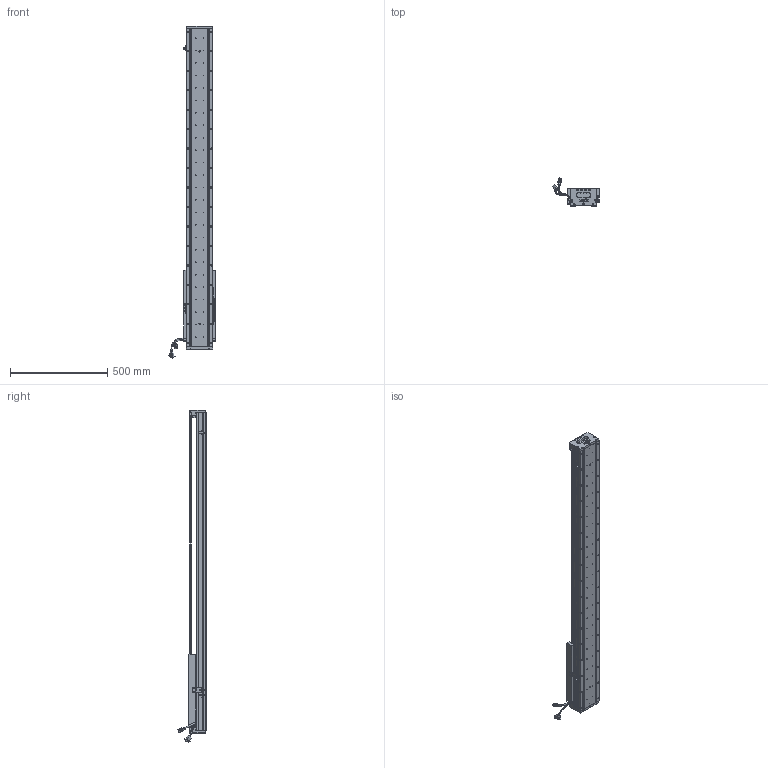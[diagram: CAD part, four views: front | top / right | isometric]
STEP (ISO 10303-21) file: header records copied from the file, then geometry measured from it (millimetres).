
FILE_DESCRIPTION (( 'STEP AP203' ), '1' );
FILE_NAME ('Z5-RY140D-1-L500-B-K.SLDASM_1200.step', '2021-05-17T08:36:12', ( '盈信电脑' ), ( '东莞市道滘镇水果街19号' ), 'SwSTEP 2.0', 'SolidWorks 2016', '' );
FILE_SCHEMA (( 'CONFIG_CONTROL_DESIGN' ));
Length unit declared in the file: millimetre
Products named in the file (36): SCREW-M1.7; 覜茼ん672; Z5-RY140圉猾敕臏賑輸(21遴); SCALE-Part-2; Z5-RY140D-1-L500-B-K.SLDASM_1200; SEAL-Part-1; 140雄赽晤鎢ん堤盄; 詩湍狟揤裔; COVER-Part-1; LABEL-Part-1; COVER; Z5-RY140-L500直线电机模组底座_1200; HOLDER0; 140-Z-臏賑輸盄裔(21遴); SCREW-M1.6-3; 榋妏寠巭燃_暯_M2_2; HARNESS; LABEL; Z-RY140感应器672光电感应片; PBU_SHEET; PSLH080_PSLF2; HARNESS-Part-1; 詩湍奻揤裔; 080黍杅芛假蚾釱21遴; 140蚥薯蝶輸; SCREW-M1.6-2; SCREW-M1.6; SCALE-Part-1; Z5-RY140-L500詩湍100mm遵_1200; SCREW-M1.6-1; Z-140詩湍傷裔啣; SCALE; SHIELDPLATE; SEAL; SCREW-M1.7-1; HARNESS-Part-2
Assembly tree (41 placements, depth 4):
  Z5-RY140D-1-L500-B-K.SLDASM_1200
    Z5-RY140-L500直线电机模组底座_1200
    Z-RY140感应器672光电感应片
    Z5-RY140圉猾敕臏賑輸(21遴)
    覜茼ん672  x3
    Z5-RY140-L500詩湍100mm遵_1200
    PSLH080_PSLF2
      SCALE
        SCALE-Part-1
        SCALE-Part-2
      HARNESS
        HARNESS-Part-1
        HARNESS-Part-2
      LABEL
        LABEL-Part-1
      COVER
        COVER-Part-1
      SEAL
        SEAL-Part-1
      榋妏寠巭燃_暯_M2_2
      SHIELDPLATE
      SCREW-M1.7
      SCREW-M1.7-1
      PBU_SHEET
      SCREW-M1.6
      SCREW-M1.6-1
      SCREW-M1.6-2
      SCREW-M1.6-3
      HOLDER0
    080黍杅芛假蚾釱21遴
    140-Z-臏賑輸盄裔(21遴)
    Z-140詩湍傷裔啣  x2
    詩湍狟揤裔  x2
    詩湍奻揤裔  x2
    140蚥薯蝶輸  x2
    140雄赽晤鎢ん堤盄
Bounding box: 239.83 x 143.88 x 1705.87 mm (x, y, z)
Volume: 6213913.4 mm3; surface area: 1574023.9 mm2
Topology: 36 solids, 36 shells, 3524 faces, 9440 edges, 5983 vertices
Faces by surface type: cylinder 1806, plane 1254, cone 342, torus 69, bspline 53
Entity records: 107856 total; most frequent: CARTESIAN_POINT 28843, ORIENTED_EDGE 15920, DIRECTION 15264, EDGE_CURVE 7960, AXIS2_PLACEMENT_3D 5668, VERTEX_POINT 5151, VECTOR 3928, LINE 3928
